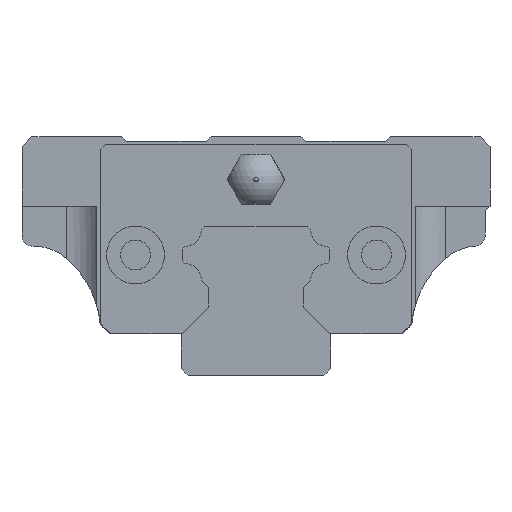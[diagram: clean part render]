
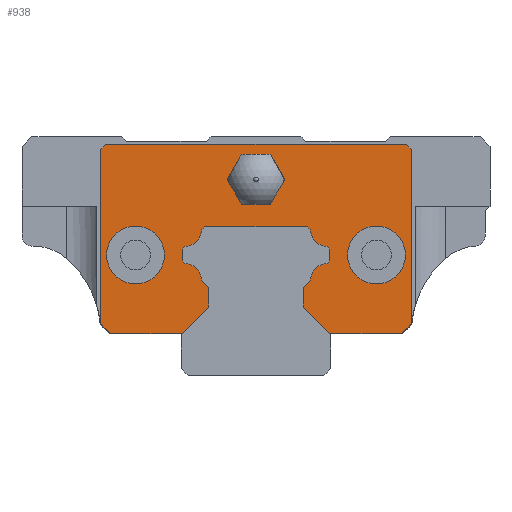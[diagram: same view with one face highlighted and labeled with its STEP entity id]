
A CAD part, front view. The second image highlights one B-rep face of the part: STEP entity #938.
In plain terms, the highlighted planar face has unit normal (0, -1, 0).
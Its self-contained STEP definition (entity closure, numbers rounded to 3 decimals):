
#242=PLANE('',#2997);
#437=LINE('',#4305,#715);
#441=LINE('',#4313,#719);
#444=LINE('',#4319,#722);
#447=LINE('',#4325,#725);
#451=LINE('',#4337,#729);
#454=LINE('',#4343,#732);
#457=LINE('',#4349,#735);
#461=LINE('',#4361,#739);
#464=LINE('',#4367,#742);
#467=LINE('',#4373,#745);
#471=LINE('',#4385,#749);
#474=LINE('',#4391,#752);
#477=LINE('',#4397,#755);
#481=LINE('',#4409,#759);
#484=LINE('',#4415,#762);
#487=LINE('',#4421,#765);
#492=LINE('',#4430,#770);
#512=LINE('',#4493,#790);
#514=LINE('',#4497,#792);
#516=LINE('',#4501,#794);
#518=LINE('',#4505,#796);
#520=LINE('',#4509,#798);
#521=LINE('',#4511,#799);
#523=LINE('',#4515,#801);
#715=VECTOR('',#3478,1.);
#719=VECTOR('',#3484,1.);
#722=VECTOR('',#3489,1.);
#725=VECTOR('',#3494,1.);
#729=VECTOR('',#3506,1.);
#732=VECTOR('',#3511,1.);
#735=VECTOR('',#3516,1.);
#739=VECTOR('',#3528,1.);
#742=VECTOR('',#3533,1.);
#745=VECTOR('',#3538,1.);
#749=VECTOR('',#3550,1.);
#752=VECTOR('',#3555,1.);
#755=VECTOR('',#3560,1.);
#759=VECTOR('',#3572,1.);
#762=VECTOR('',#3577,1.);
#765=VECTOR('',#3582,1.);
#770=VECTOR('',#3589,1.);
#790=VECTOR('',#3661,1.);
#792=VECTOR('',#3665,1.);
#794=VECTOR('',#3669,1.);
#796=VECTOR('',#3673,1.);
#798=VECTOR('',#3677,1.);
#799=VECTOR('',#3680,1.);
#801=VECTOR('',#3684,1.);
#938=ADVANCED_FACE('',(#1133,#1134,#1078),#242,.F.);
#1078=FACE_OUTER_BOUND('',#1310,.T.);
#1133=FACE_BOUND('',#1308,.T.);
#1134=FACE_BOUND('',#1309,.T.);
#1308=EDGE_LOOP('',(#1975));
#1309=EDGE_LOOP('',(#1976));
#1310=EDGE_LOOP('',(#1977,#1978,#1979,#1980,#1981,#1982,#1983,#1984,#1985,
#1986,#1987,#1988,#1989,#1990,#1991,#1992,#1993,#1994,#1995,#1996,#1997,
#1998,#1999,#2000,#2001,#2002,#2003,#2004));
#1975=ORIENTED_EDGE('',*,*,#2692,.F.);
#1976=ORIENTED_EDGE('',*,*,#2693,.F.);
#1977=ORIENTED_EDGE('',*,*,#2680,.F.);
#1978=ORIENTED_EDGE('',*,*,#2691,.T.);
#1979=ORIENTED_EDGE('',*,*,#2689,.T.);
#1980=ORIENTED_EDGE('',*,*,#2653,.T.);
#1981=ORIENTED_EDGE('',*,*,#2648,.T.);
#1982=ORIENTED_EDGE('',*,*,#2645,.F.);
#1983=ORIENTED_EDGE('',*,*,#2642,.F.);
#1984=ORIENTED_EDGE('',*,*,#2639,.T.);
#1985=ORIENTED_EDGE('',*,*,#2636,.F.);
#1986=ORIENTED_EDGE('',*,*,#2633,.F.);
#1987=ORIENTED_EDGE('',*,*,#2630,.T.);
#1988=ORIENTED_EDGE('',*,*,#2627,.T.);
#1989=ORIENTED_EDGE('',*,*,#2624,.T.);
#1990=ORIENTED_EDGE('',*,*,#2621,.T.);
#1991=ORIENTED_EDGE('',*,*,#2618,.F.);
#1992=ORIENTED_EDGE('',*,*,#2615,.T.);
#1993=ORIENTED_EDGE('',*,*,#2612,.F.);
#1994=ORIENTED_EDGE('',*,*,#2609,.T.);
#1995=ORIENTED_EDGE('',*,*,#2606,.T.);
#1996=ORIENTED_EDGE('',*,*,#2603,.T.);
#1997=ORIENTED_EDGE('',*,*,#2600,.T.);
#1998=ORIENTED_EDGE('',*,*,#2597,.T.);
#1999=ORIENTED_EDGE('',*,*,#2594,.F.);
#2000=ORIENTED_EDGE('',*,*,#2590,.T.);
#2001=ORIENTED_EDGE('',*,*,#2688,.T.);
#2002=ORIENTED_EDGE('',*,*,#2686,.F.);
#2003=ORIENTED_EDGE('',*,*,#2684,.F.);
#2004=ORIENTED_EDGE('',*,*,#2682,.F.);
#2267=VERTEX_POINT('',#4304);
#2268=VERTEX_POINT('',#4306);
#2271=VERTEX_POINT('',#4314);
#2273=VERTEX_POINT('',#4320);
#2275=VERTEX_POINT('',#4326);
#2277=VERTEX_POINT('',#4332);
#2279=VERTEX_POINT('',#4338);
#2281=VERTEX_POINT('',#4344);
#2283=VERTEX_POINT('',#4350);
#2285=VERTEX_POINT('',#4356);
#2287=VERTEX_POINT('',#4362);
#2289=VERTEX_POINT('',#4368);
#2291=VERTEX_POINT('',#4374);
#2293=VERTEX_POINT('',#4380);
#2295=VERTEX_POINT('',#4386);
#2297=VERTEX_POINT('',#4392);
#2299=VERTEX_POINT('',#4398);
#2301=VERTEX_POINT('',#4404);
#2303=VERTEX_POINT('',#4410);
#2305=VERTEX_POINT('',#4416);
#2307=VERTEX_POINT('',#4422);
#2310=VERTEX_POINT('',#4431);
#2322=VERTEX_POINT('',#4492);
#2323=VERTEX_POINT('',#4494);
#2324=VERTEX_POINT('',#4498);
#2325=VERTEX_POINT('',#4502);
#2326=VERTEX_POINT('',#4506);
#2327=VERTEX_POINT('',#4512);
#2328=VERTEX_POINT('',#4518);
#2329=VERTEX_POINT('',#4520);
#2590=EDGE_CURVE('',#2268,#2267,#437,.T.);
#2594=EDGE_CURVE('',#2268,#2271,#441,.T.);
#2597=EDGE_CURVE('',#2273,#2271,#444,.T.);
#2600=EDGE_CURVE('',#2275,#2273,#447,.T.);
#2603=EDGE_CURVE('',#2277,#2275,#2772,.T.);
#2606=EDGE_CURVE('',#2279,#2277,#451,.T.);
#2609=EDGE_CURVE('',#2281,#2279,#454,.T.);
#2612=EDGE_CURVE('',#2281,#2283,#457,.T.);
#2615=EDGE_CURVE('',#2285,#2283,#2774,.T.);
#2618=EDGE_CURVE('',#2285,#2287,#461,.T.);
#2621=EDGE_CURVE('',#2289,#2287,#464,.T.);
#2624=EDGE_CURVE('',#2291,#2289,#467,.T.);
#2627=EDGE_CURVE('',#2293,#2291,#2776,.T.);
#2630=EDGE_CURVE('',#2295,#2293,#471,.T.);
#2633=EDGE_CURVE('',#2295,#2297,#474,.T.);
#2636=EDGE_CURVE('',#2297,#2299,#477,.T.);
#2639=EDGE_CURVE('',#2301,#2299,#2778,.T.);
#2642=EDGE_CURVE('',#2301,#2303,#481,.T.);
#2645=EDGE_CURVE('',#2303,#2305,#484,.T.);
#2648=EDGE_CURVE('',#2307,#2305,#487,.T.);
#2653=EDGE_CURVE('',#2310,#2307,#492,.T.);
#2680=EDGE_CURVE('',#2322,#2323,#512,.T.);
#2682=EDGE_CURVE('',#2323,#2324,#514,.T.);
#2684=EDGE_CURVE('',#2324,#2325,#516,.T.);
#2686=EDGE_CURVE('',#2325,#2326,#518,.T.);
#2688=EDGE_CURVE('',#2267,#2326,#520,.T.);
#2689=EDGE_CURVE('',#2327,#2310,#521,.T.);
#2691=EDGE_CURVE('',#2322,#2327,#523,.T.);
#2692=EDGE_CURVE('',#2328,#2328,#2786,.T.);
#2693=EDGE_CURVE('',#2329,#2329,#2787,.T.);
#2772=CIRCLE('',#2938,1.8);
#2774=CIRCLE('',#2944,1.8);
#2776=CIRCLE('',#2950,1.8);
#2778=CIRCLE('',#2956,1.8);
#2786=CIRCLE('',#2995,2.9);
#2787=CIRCLE('',#2996,2.9);
#2938=AXIS2_PLACEMENT_3D('',#4331,#3499,#3500);
#2944=AXIS2_PLACEMENT_3D('',#4355,#3521,#3522);
#2950=AXIS2_PLACEMENT_3D('',#4379,#3543,#3544);
#2956=AXIS2_PLACEMENT_3D('',#4403,#3565,#3566);
#2995=AXIS2_PLACEMENT_3D('',#4517,#3687,#3688);
#2996=AXIS2_PLACEMENT_3D('',#4519,#3689,#3690);
#2997=AXIS2_PLACEMENT_3D('',#4521,#3691,#3692);
#3478=DIRECTION('',(1.,0.,0.));
#3484=DIRECTION('',(-0.707,0.,0.707));
#3489=DIRECTION('',(0.,0.,-1.));
#3494=DIRECTION('',(-0.707,0.,-0.707));
#3499=DIRECTION('',(0.,-1.,0.));
#3500=DIRECTION('',(1.,0.,0.));
#3506=DIRECTION('',(-0.707,0.,-0.707));
#3511=DIRECTION('',(0.,0.,-1.));
#3516=DIRECTION('',(-0.707,0.,0.707));
#3521=DIRECTION('',(0.,-1.,0.));
#3522=DIRECTION('',(1.,0.,0.));
#3528=DIRECTION('',(-0.707,0.,0.707));
#3533=DIRECTION('',(1.,0.,0.));
#3538=DIRECTION('',(0.707,0.,0.707));
#3543=DIRECTION('',(0.,-1.,0.));
#3544=DIRECTION('',(1.,0.,0.));
#3550=DIRECTION('',(0.707,0.,0.707));
#3555=DIRECTION('',(0.,0.,-1.));
#3560=DIRECTION('',(0.707,0.,-0.707));
#3565=DIRECTION('',(0.,-1.,0.));
#3566=DIRECTION('',(1.,0.,0.));
#3572=DIRECTION('',(0.707,0.,-0.707));
#3577=DIRECTION('',(0.,0.,-1.));
#3582=DIRECTION('',(0.707,0.,0.707));
#3589=DIRECTION('',(1.,0.,0.));
#3661=DIRECTION('',(0.707,0.,0.707));
#3665=DIRECTION('',(1.,0.,0.));
#3669=DIRECTION('',(0.707,0.,-0.707));
#3673=DIRECTION('',(0.,0.,-1.));
#3677=DIRECTION('',(0.707,0.,0.707));
#3680=DIRECTION('',(0.707,0.,-0.707));
#3684=DIRECTION('',(0.,0.,-1.));
#3687=DIRECTION('',(0.,-1.,0.));
#3688=DIRECTION('',(0.,0.,-1.));
#3689=DIRECTION('',(0.,-1.,0.));
#3690=DIRECTION('',(0.,0.,-1.));
#3691=DIRECTION('',(0.,1.,0.));
#3692=DIRECTION('',(0.,0.,1.));
#4304=CARTESIAN_POINT('',(14.6,-43.6,-19.65));
#4305=CARTESIAN_POINT('',(7.401,-43.6,-19.65));
#4306=CARTESIAN_POINT('',(7.401,-43.6,-19.65));
#4313=CARTESIAN_POINT('',(7.401,-43.6,-19.65));
#4314=CARTESIAN_POINT('',(4.73,-43.6,-16.979));
#4319=CARTESIAN_POINT('',(4.73,-43.6,-15.021));
#4320=CARTESIAN_POINT('',(4.73,-43.6,-15.021));
#4325=CARTESIAN_POINT('',(5.447,-43.6,-14.304));
#4326=CARTESIAN_POINT('',(5.447,-43.6,-14.304));
#4331=CARTESIAN_POINT('',(7.245,-43.6,-14.395));
#4332=CARTESIAN_POINT('',(7.154,-43.6,-12.597));
#4337=CARTESIAN_POINT('',(7.43,-43.6,-12.321));
#4338=CARTESIAN_POINT('',(7.43,-43.6,-12.321));
#4343=CARTESIAN_POINT('',(7.43,-43.6,-11.179));
#4344=CARTESIAN_POINT('',(7.43,-43.6,-11.179));
#4349=CARTESIAN_POINT('',(7.43,-43.6,-11.179));
#4350=CARTESIAN_POINT('',(7.154,-43.6,-10.903));
#4355=CARTESIAN_POINT('',(7.245,-43.6,-9.105));
#4356=CARTESIAN_POINT('',(5.447,-43.6,-9.196));
#4361=CARTESIAN_POINT('',(5.447,-43.6,-9.196));
#4362=CARTESIAN_POINT('',(5.171,-43.6,-8.92));
#4367=CARTESIAN_POINT('',(-5.171,-43.6,-8.92));
#4368=CARTESIAN_POINT('',(-5.171,-43.6,-8.92));
#4373=CARTESIAN_POINT('',(-5.447,-43.6,-9.196));
#4374=CARTESIAN_POINT('',(-5.447,-43.6,-9.196));
#4379=CARTESIAN_POINT('',(-7.245,-43.6,-9.105));
#4380=CARTESIAN_POINT('',(-7.154,-43.6,-10.903));
#4385=CARTESIAN_POINT('',(-7.43,-43.6,-11.179));
#4386=CARTESIAN_POINT('',(-7.43,-43.6,-11.179));
#4391=CARTESIAN_POINT('',(-7.43,-43.6,-11.179));
#4392=CARTESIAN_POINT('',(-7.43,-43.6,-12.321));
#4397=CARTESIAN_POINT('',(-7.43,-43.6,-12.321));
#4398=CARTESIAN_POINT('',(-7.154,-43.6,-12.597));
#4403=CARTESIAN_POINT('',(-7.245,-43.6,-14.395));
#4404=CARTESIAN_POINT('',(-5.447,-43.6,-14.304));
#4409=CARTESIAN_POINT('',(-5.447,-43.6,-14.304));
#4410=CARTESIAN_POINT('',(-4.73,-43.6,-15.021));
#4415=CARTESIAN_POINT('',(-4.73,-43.6,-15.021));
#4416=CARTESIAN_POINT('',(-4.73,-43.6,-16.979));
#4421=CARTESIAN_POINT('',(-7.401,-43.6,-19.65));
#4422=CARTESIAN_POINT('',(-7.401,-43.6,-19.65));
#4430=CARTESIAN_POINT('',(-14.6,-43.6,-19.65));
#4431=CARTESIAN_POINT('',(-14.6,-43.6,-19.65));
#4492=CARTESIAN_POINT('',(-15.6,-43.6,-1.15));
#4493=CARTESIAN_POINT('',(-15.6,-43.6,-1.15));
#4494=CARTESIAN_POINT('',(-15.1,-43.6,-0.65));
#4497=CARTESIAN_POINT('',(-15.1,-43.6,-0.65));
#4498=CARTESIAN_POINT('',(15.1,-43.6,-0.65));
#4501=CARTESIAN_POINT('',(15.1,-43.6,-0.65));
#4502=CARTESIAN_POINT('',(15.6,-43.6,-1.15));
#4505=CARTESIAN_POINT('',(15.6,-43.6,-1.15));
#4506=CARTESIAN_POINT('',(15.6,-43.6,-18.65));
#4509=CARTESIAN_POINT('',(14.6,-43.6,-19.65));
#4511=CARTESIAN_POINT('',(-15.6,-43.6,-18.65));
#4512=CARTESIAN_POINT('',(-15.6,-43.6,-18.65));
#4515=CARTESIAN_POINT('',(-15.6,-43.6,-1.15));
#4517=CARTESIAN_POINT('',(12.1,-43.6,-11.75));
#4518=CARTESIAN_POINT('',(12.1,-43.6,-14.65));
#4519=CARTESIAN_POINT('',(-12.1,-43.6,-11.75));
#4520=CARTESIAN_POINT('',(-12.1,-43.6,-14.65));
#4521=CARTESIAN_POINT('',(7.245,-43.6,-14.395));
